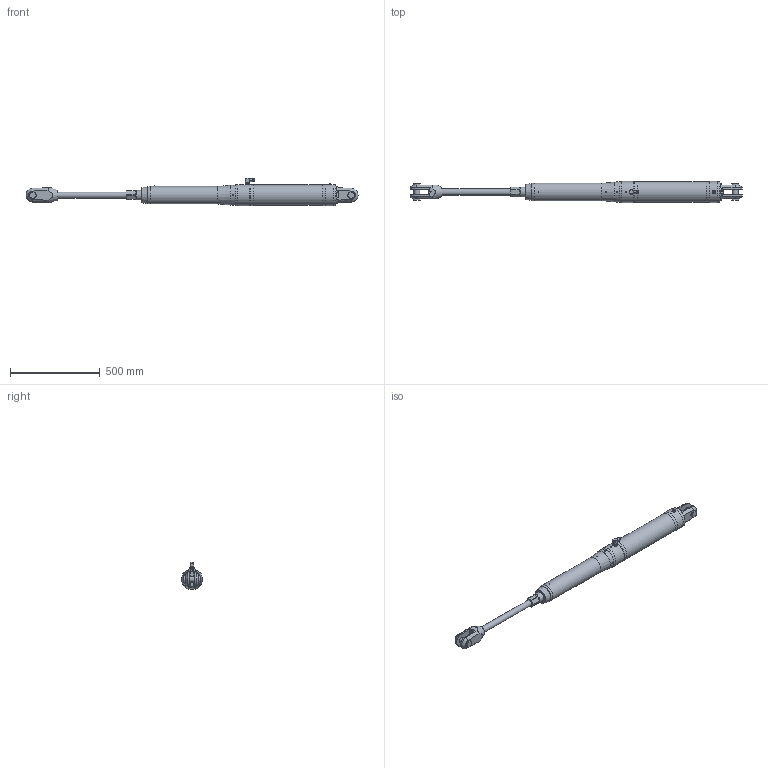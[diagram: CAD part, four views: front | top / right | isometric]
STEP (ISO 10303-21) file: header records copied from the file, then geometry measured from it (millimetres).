
FILE_DESCRIPTION(/* description */ (''),/* implementation_level */ '2;1');
FILE_NAME(/* name */ 'Q:\AA BRAND HYDRAULICS\HYDRAULICS FAMILY DIRECTORY\HYDRAULICS\CYLINDERS\MECHANICAL LOCK RAMS\ALUMINIUM - STAINLESS SINGLE ACTING (-0012 To -0150)\MSA-0060-S0375-NP-71\MSA-0060-S0375-NP-71 (Open).stp',/* time_stamp */ '2018-04-25T16:36:16+01:00',/* author */ ('Lorena'),/* organization */ (''),/* preprocessor_version */ 'ST-DEVELOPER v17',/* originating_system */ 'Autodesk Inventor 2018',/* authorisation */ '');
FILE_SCHEMA (('AUTOMOTIVE_DESIGN { 1 0 10303 214 3 1 1 }'));
Length unit declared in the file: millimetre
Products named in the file (1): MSA-0060-S0375-NP-71 (Open)
Bounding box: 1849.15 x 117.4 x 152.95 mm (x, y, z)
Volume: 11531431.1 mm3; surface area: 566442.7 mm2
Topology: 2 solids, 4 shells, 493 faces, 1293 edges, 842 vertices
Faces by surface type: plane 279, cone 124, cylinder 76, torus 6, bspline 4, sphere 4
Full cylindrical faces by diameter (mm): 4 x1, 4.134 x1, 4.2 x2, 5 x2, 6 x4, 7 x1, 7.5 x1, 8.1 x1, 9 x1, 10 x2, 14 x1, 14.35 x1, 14.662 x1, 15 x2, 15.662 x1, 16.662 x2, 18 x2, 20 x2, 21.4 x3, 25 x1, 31.75 x2, 34.25 x1, 39.688 x2, 53 x2, 54 x2, 57 x1, 98 x1, 114.4 x1, 117.4 x4
Entity records: 16653 total; most frequent: CARTESIAN_POINT 4131, ORIENTED_EDGE 2568, DIRECTION 2497, EDGE_CURVE 1284, AXIS2_PLACEMENT_3D 958, VERTEX_POINT 843, LINE 581, VECTOR 581
